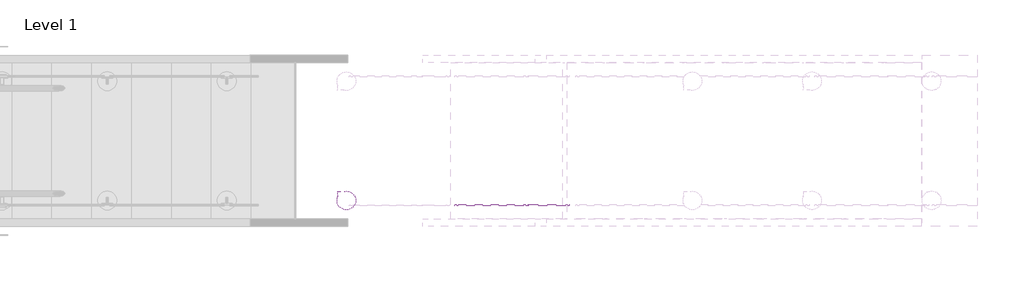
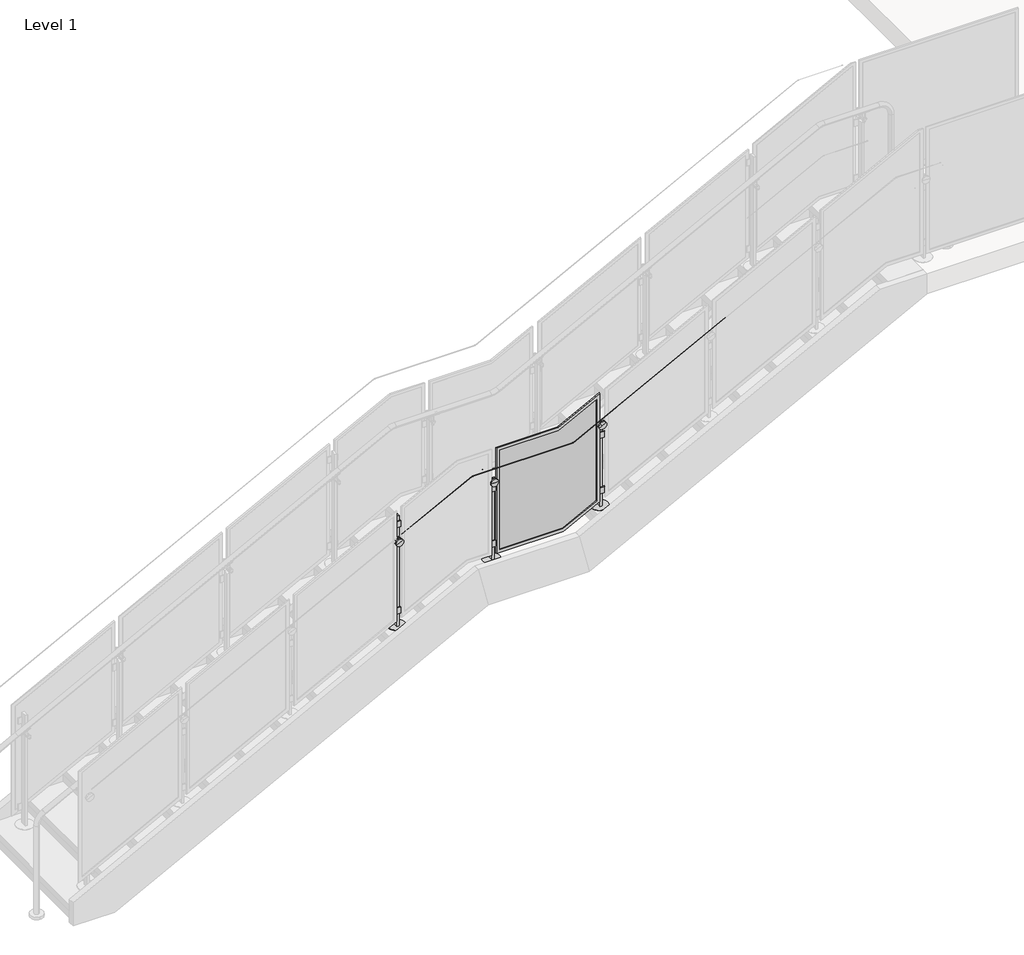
# One storey, part 24 of 28: 2 railings.
"""IFC4 building model written with IfcOpenShell, lengths in millimetres."""

from ifc_helpers import new_model, si_unit, point, frame, frame_2d, origin, place, context, project, spatial, polyline, circle_curve, ellipse_curve, trimmed, segment, composite_curve, outline, extrude, transform, mapped, element, save
from ifc_brep_helpers import plane_surface, cylinder_surface, advanced_brep
from components import standard_pp01_6bf6f29d

model = new_model("IFC4")

# Units and contexts
model_context = context("Model", 3, world=origin())
ifc_project = project(units=[si_unit("LENGTHUNIT", "METRE", prefix="MILLI")], contexts=[model_context])

# Site, building, storey
site = spatial("IfcSite", under=ifc_project)
building = spatial("IfcBuilding", under=site)
storey = spatial("IfcBuildingStorey", under=building, Name="Level 1", Elevation=0.0)

# Railings
placement = place(None, origin())
element("IfcRailing", 1, ObjectType="Metal-Panel-VIVA-STRUC-Top_Core-Stairs-Landing", at=placement, inside=storey, context=model_context, shape_type="SolidModel", body=[
    advanced_brep(
    [(-16484.3313244, 8263.5937722, 2381.2638324), (-16484.3313244, 8264.5937722, 2381.2638324), (-15931.7592018, 8263.5937722, 2668.3142857), (-15931.7592018, 8264.5937722, 2668.3142857), (-15144.3592018, 8263.5937722, 2668.3142857), (-15144.3592018, 8264.5937722, 2668.3142857), (-13959.1395244, 8263.5937722, 3284.0128194), (-13959.1395244, 8264.5937722, 3284.0128194)],
    [
        (0, 1, ellipse_curve(frame((-16484.3313244, 8264.0937722, 2381.2638324), z_axis=(-1.0, 0.0, 0.0), x_axis=(0.0, 0.0, -1.0)), 0.5634403, 0.5)),
        (1, 0, ellipse_curve(frame((-16484.3313244, 8264.0937722, 2381.2638324), z_axis=(-1.0, 0.0, 0.0), x_axis=(0.0, 0.0, -1.0)), 0.5634403, 0.5)),
        (0, 2),
        (2, 3, ellipse_curve(frame((-15931.7592018, 8264.0937722, 2668.3142857), z_axis=(-0.9714436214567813, 0.0, -0.23727050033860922), x_axis=(0.23727050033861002, 0.0, -0.971443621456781)), 0.5146979, 0.5)),
        (3, 1),
        (3, 2, ellipse_curve(frame((-15931.7592018, 8264.0937722, 2668.3142857), z_axis=(-0.9714436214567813, 0.0, -0.23727050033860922), x_axis=(0.23727050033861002, 0.0, -0.971443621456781)), 0.5146979, 0.5)),
        (2, 4),
        (4, 5, ellipse_curve(frame((-15144.3592018, 8264.0937722, 2668.3142857), z_axis=(-0.971443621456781, 0.0, -0.23727050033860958), x_axis=(-0.23727050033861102, 0.0, 0.9714436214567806)), 0.5146979, 0.5)),
        (5, 3),
        (5, 4, ellipse_curve(frame((-15144.3592018, 8264.0937722, 2668.3142857), z_axis=(-0.971443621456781, 0.0, -0.23727050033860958), x_axis=(-0.23727050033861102, 0.0, 0.9714436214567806)), 0.5146979, 0.5)),
        (6, 7, ellipse_curve(frame((-13959.1395244, 8264.0937722, 3284.0128194), z_axis=(1.0, 0.0, 0.0), x_axis=(0.0, 0.0, -1.0)), 0.5634403, 0.5)),
        (7, 6, ellipse_curve(frame((-13959.1395244, 8264.0937722, 3284.0128194), z_axis=(1.0, 0.0, 0.0), x_axis=(0.0, 0.0, -1.0)), 0.5634403, 0.5)),
        (4, 6),
        (7, 5),
    ],
    [
        plane_surface(frame((-16484.3313244, 8264.0937722, 2381.8272727), z_axis=(-1.0, 0.0, 0.0), x_axis=(0.0, 1.0, 0.0))),
        cylinder_surface(frame((-16484.1008295, 8264.0937722, 2381.38357), z_axis=(-0.8874054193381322, 0.0, -0.4609898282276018), x_axis=(0.0, 1.0, 0.0)), 0.5),
        cylinder_surface(frame((-15931.8813244, 8264.0937722, 2668.3142857), z_axis=(-1.0, 0.0, 0.0), x_axis=(0.0, 1.0, 0.0)), 0.5),
        plane_surface(frame((-13959.1395244, 8264.0937722, 3284.5762597), z_axis=(1.0, 0.0, 0.0), x_axis=(0.0, 1.0, 0.0))),
        cylinder_surface(frame((-15144.2508295, 8264.0937722, 2668.370583), z_axis=(-0.8874054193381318, 0.0, -0.4609898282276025), x_axis=(0.0, 1.0, 0.0)), 0.5),
    ],
    [
        (0, [[1, 2]]),
        (1, [[-1, 3, 4, 5]]),
        (1, [[-2, -5, 6, -3]]),
        (2, [[-4, 7, 8, 9]]),
        (2, [[-6, -9, 10, -7]]),
        (3, [[11, 12]]),
        (4, [[-8, 13, -12, 14]]),
        (4, [[-10, -14, -11, -13]]),
    ],
),
    extrude(outline(polyline([(-14838.9708437, 8485.1469722), (-14762.7694052, 8485.1469722), (-14762.7694052, 8478.0349722), (-14838.9708437, 8478.0349722), (-14838.9708437, 8485.1469722)])), frame((0.0, 0.0, 2456.8331429), z_axis=(0.0, 0.0, 1.0), x_axis=(1.0, 0.0, 0.0)), (0.0, 0.0, 1.0), 50.8),
    extrude(outline(polyline([(-14838.9708437, 8485.1469722), (-14762.7694052, 8485.1469722), (-14762.7694052, 8478.0349722), (-14838.9708437, 8478.0349722), (-14838.9708437, 8485.1469722)])), frame((0.0, 0.0, 1999.6331429), z_axis=(0.0, 0.0, 1.0), x_axis=(1.0, 0.0, 0.0)), (0.0, 0.0, 1.0), 50.8),
    extrude(outline(composite_curve([segment(polyline([(2.99974, 1e-07), (0.0, 0.0)]), True, "CONTINUOUS"), segment(trimmed(circle_curve(frame_2d((-19.0451472, -1e-07)), 19.0451471), [point((0.0, 0.0))], [point((-23.6280664, 18.4855208))], True, "CARTESIAN"), True, "CONTINUOUS"), segment(polyline([(-23.6280664, 18.4855208), (-24.3499073, 21.397116)]), True, "CONTINUOUS"), segment(trimmed(circle_curve(frame_2d((-19.0451472, -1e-07)), 22.0448871), [point((-24.3499073, 21.397116))], [point((2.99974, 1e-07))], False, "CARTESIAN"), True, "CONTINUOUS")], self_intersect=False)), frame((-14863.3578349, 8539.2349722, 2605.6654072), z_axis=(0.8874054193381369, 0.0, 0.4609898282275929), x_axis=(0.2840545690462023, -0.7876022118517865, -0.5468050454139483)), (0.0, 0.0, 1.0), 79.1184357),
    advanced_brep(
    [(-14788.4729468, 8554.2349722, 2547.3256434), (-14788.4729468, 8547.0912222, 2547.3256434), (-14788.4729468, 8561.3787222, 2547.3256434), (-14824.3321931, 8547.0912222, 2616.3546925), (-14824.3321931, 8554.2349722, 2616.3546925), (-14824.3321931, 8561.3787222, 2616.3546925)],
    [
        (0, 1),
        (1, 2, circle_curve(frame((-14788.4729468, 8554.2349722, 2547.3256434), z_axis=(0.46098982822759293, 0.0, -0.8874054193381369), x_axis=(0.0, 1.0, 0.0)), 7.14375)),
        (2, 0),
        (3, 4),
        (4, 5),
        (5, 3, circle_curve(frame((-14824.3321931, 8554.2349722, 2616.3546925), z_axis=(-0.46098982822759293, 0.0, 0.8874054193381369), x_axis=(0.0, 1.0, 0.0)), 7.14375)),
        (2, 1, circle_curve(frame((-14788.4729468, 8554.2349722, 2547.3256434), z_axis=(0.46098982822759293, 0.0, -0.8874054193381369), x_axis=(0.0, 1.0, 0.0)), 7.14375)),
        (3, 5, circle_curve(frame((-14824.3321931, 8554.2349722, 2616.3546925), z_axis=(-0.46098982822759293, 0.0, 0.8874054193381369), x_axis=(0.0, 1.0, 0.0)), 7.14375)),
        (1, 3),
        (5, 2),
    ],
    [
        plane_surface(frame((-14788.4729468, 8554.2349722, 2547.3256434), z_axis=(0.46098982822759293, 0.0, -0.8874054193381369), x_axis=(0.0, 1.0, 0.0))),
        plane_surface(frame((-14824.3321931, 8554.2349722, 2616.3546925), z_axis=(-0.46098982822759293, 0.0, 0.8874054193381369), x_axis=(0.0, 1.0, 0.0))),
        cylinder_surface(frame((-14671.5187469, 8554.2349722, 2322.1888087), z_axis=(0.46098982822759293, 0.0, -0.8874054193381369), x_axis=(0.0, 1.0, 0.0)), 7.14375),
    ],
    [
        (0, [[1, 2, 3]]),
        (1, [[4, 5, 6]]),
        (0, [[-3, 7, -1]]),
        (1, [[-5, -4, 8]]),
        (2, [[9, -6, 10, -2]]),
        (2, [[-10, -8, -9, -7]]),
    ],
),
    advanced_brep(
    [(-14827.6364904, 8468.5099722, 2557.2856047), (-14806.5051488, 8468.5099722, 2568.262925), (-14795.2351, 8468.5099722, 2574.1174958), (-14774.1037585, 8468.5099722, 2585.0948161), (-14827.6364904, 8460.5724722, 2557.2856047), (-14774.1037585, 8460.5724722, 2585.0948161), (-14827.6364904, 8485.9724722, 2557.2856047), (-14812.1401733, 8485.9724722, 2565.3356396), (-14789.6000756, 8485.9724722, 2577.0447812), (-14774.1037585, 8485.9724722, 2585.0948161), (-14827.6364904, 8478.0349722, 2557.2856047), (-14774.1037585, 8478.0349722, 2585.0948161), (-14800.8701244, 8460.5724722, 2571.1902104), (-14812.1401733, 8565.3474722, 2565.3356396), (-14800.8701244, 8565.3474722, 2571.1902104), (-14789.6000756, 8565.3474722, 2577.0447812), (-14806.5051488, 8478.0349722, 2568.262925), (-14795.2351, 8478.0349722, 2574.1174958)],
    [
        (0, 1),
        (1, 2, circle_curve(frame((-14800.8701244, 8468.5099722, 2571.1902104), z_axis=(0.0, -1.0, 0.0), x_axis=(0.8874054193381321, 0.0, 0.46098982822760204)), 6.35)),
        (2, 3),
        (3, 0, circle_curve(frame((-14800.8701244, 8468.5099722, 2571.1902104), z_axis=(0.0, 1.0, 0.0), x_axis=(0.8874054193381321, 0.0, 0.46098982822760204)), 30.1625)),
        (4, 0),
        (3, 5),
        (5, 4, circle_curve(frame((-14800.8701244, 8460.5724722, 2571.1902104), z_axis=(0.0, 1.0, 0.0), x_axis=(0.8874054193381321, 0.0, 0.46098982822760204)), 30.1625)),
        (6, 7),
        (7, 8, circle_curve(frame((-14800.8701244, 8485.9724722, 2571.1902104), z_axis=(0.0, -1.0, 0.0), x_axis=(0.8874054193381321, 0.0, 0.46098982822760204)), 12.7)),
        (8, 9),
        (9, 6, circle_curve(frame((-14800.8701244, 8485.9724722, 2571.1902104), z_axis=(0.0, 1.0, 0.0), x_axis=(0.8874054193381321, 0.0, 0.46098982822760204)), 30.1625)),
        (10, 6),
        (9, 11),
        (11, 10, circle_curve(frame((-14800.8701244, 8478.0349722, 2571.1902104), z_axis=(0.0, 1.0, 0.0), x_axis=(0.8874054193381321, 0.0, 0.46098982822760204)), 30.1625)),
        (3, 0, circle_curve(frame((-14800.8701244, 8468.5099722, 2571.1902104), z_axis=(0.0, -1.0, 0.0), x_axis=(0.8874054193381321, 0.0, 0.46098982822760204)), 30.1625)),
        (4, 5, circle_curve(frame((-14800.8701244, 8460.5724722, 2571.1902104), z_axis=(0.0, 1.0, 0.0), x_axis=(0.8874054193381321, 0.0, 0.46098982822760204)), 30.1625)),
        (12, 4),
        (5, 12),
        (13, 14),
        (14, 15),
        (15, 13, circle_curve(frame((-14800.8701244, 8565.3474722, 2571.1902104), z_axis=(0.0, 1.0, 0.0), x_axis=(0.8874054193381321, 0.0, 0.46098982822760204)), 12.7)),
        (13, 15, circle_curve(frame((-14800.8701244, 8565.3474722, 2571.1902104), z_axis=(0.0, 1.0, 0.0), x_axis=(0.8874054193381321, 0.0, 0.46098982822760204)), 12.7)),
        (7, 13),
        (15, 8),
        (7, 8, circle_curve(frame((-14800.8701244, 8485.9724722, 2571.1902104), z_axis=(0.0, 1.0, 0.0), x_axis=(0.8874054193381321, 0.0, 0.46098982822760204)), 12.7)),
        (6, 9, circle_curve(frame((-14800.8701244, 8485.9724722, 2571.1902104), z_axis=(0.0, 1.0, 0.0), x_axis=(0.8874054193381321, 0.0, 0.46098982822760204)), 30.1625)),
        (10, 11, circle_curve(frame((-14800.8701244, 8478.0349722, 2571.1902104), z_axis=(0.0, 1.0, 0.0), x_axis=(0.8874054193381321, 0.0, 0.46098982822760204)), 30.1625)),
        (16, 10),
        (11, 17),
        (17, 16, circle_curve(frame((-14800.8701244, 8478.0349722, 2571.1902104), z_axis=(0.0, 1.0, 0.0), x_axis=(0.8874054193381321, 0.0, 0.46098982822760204)), 6.35)),
        (16, 17, circle_curve(frame((-14800.8701244, 8478.0349722, 2571.1902104), z_axis=(0.0, 1.0, 0.0), x_axis=(0.8874054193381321, 0.0, 0.46098982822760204)), 6.35)),
        (1, 16),
        (17, 2),
        (1, 2, circle_curve(frame((-14800.8701244, 8468.5099722, 2571.1902104), z_axis=(0.0, 1.0, 0.0), x_axis=(0.8874054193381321, 0.0, 0.46098982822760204)), 6.35)),
    ],
    [
        plane_surface(frame((-14800.8701244, 8468.5099722, 2571.1902104), z_axis=(0.0, 1.0, 0.0), x_axis=(0.8874054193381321, 0.0, 0.46098982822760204))),
        cylinder_surface(frame((-14800.8701244, 6954.0349722, 2571.1902104), z_axis=(0.0, -1.0, 0.0), x_axis=(0.8874054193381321, 0.0, 0.46098982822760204)), 30.1625),
        plane_surface(frame((-14800.8701244, 8485.9724722, 2571.1902104), z_axis=(0.0, 1.0, 0.0), x_axis=(0.8874054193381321, 0.0, 0.46098982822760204))),
        plane_surface(frame((-14800.8701244, 8460.5724722, 2571.1902104), z_axis=(0.0, -1.0, 0.0), x_axis=(0.8874054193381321, 0.0, 0.46098982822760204))),
        plane_surface(frame((-14800.8701244, 8565.3474722, 2571.1902104), z_axis=(0.0, 1.0, 0.0), x_axis=(0.8874054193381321, 0.0, 0.46098982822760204))),
        cylinder_surface(frame((-14800.8701244, 6954.0349722, 2571.1902104), z_axis=(0.0, -1.0, 0.0), x_axis=(0.8874054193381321, 0.0, 0.46098982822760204)), 12.7),
        plane_surface(frame((-14800.8701244, 8478.0349722, 2571.1902104), z_axis=(0.0, -1.0, 0.0), x_axis=(0.8874054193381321, 0.0, 0.46098982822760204))),
        cylinder_surface(frame((-14800.8701244, 6954.0349722, 2571.1902104), z_axis=(0.0, -1.0, 0.0), x_axis=(0.8874054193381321, 0.0, 0.46098982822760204)), 6.35),
    ],
    [
        (0, [[1, 2, 3, 4]]),
        (1, [[5, -4, 6, 7]]),
        (2, [[8, 9, 10, 11]]),
        (1, [[12, -11, 13, 14]]),
        (1, [[-6, 15, -5, 16]]),
        (3, [[17, -7, 18]]),
        (3, [[-18, -16, -17]]),
        (4, [[19, 20, 21]]),
        (4, [[-20, -19, 22]]),
        (5, [[23, -21, 24, -9]]),
        (5, [[-24, -22, -23, 25]]),
        (2, [[-10, -25, -8, 26]]),
        (1, [[-13, -26, -12, 27]]),
        (6, [[28, -14, 29, 30]]),
        (6, [[-29, -27, -28, 31]]),
        (7, [[32, -30, 33, -2]]),
        (7, [[-33, -31, -32, 34]]),
        (0, [[-3, -34, -1, -15]]),
    ],
),
    extrude(outline(composite_curve([segment(trimmed(circle_curve(frame_2d((-14800.8701244, 8507.3719722)), 65.8876), [point((-14800.8701244, 8441.4843722))], [point((-14800.8701244, 8573.2595722))], False, "CARTESIAN"), True, "CONTINUOUS"), segment(trimmed(circle_curve(frame_2d((-14800.8701244, 8507.3719722)), 65.8876), [point((-14800.8701244, 8573.2595722))], [point((-14800.8701244, 8441.4843722))], False, "CARTESIAN"), True, "CONTINUOUS")], self_intersect=False)), frame((0.0, 0.0, 1886.8571429), z_axis=(0.0, 0.0, 1.0), x_axis=(1.0, 0.0, 0.0)), (0.0, 0.0, 1.0), 2.9821299),
    extrude(outline(polyline([(-14808.8097161, 8529.5969722), (-14792.9305328, 8529.5969722), (-14792.9305328, 8485.1469722), (-14808.8097161, 8485.1469722), (-14808.8097161, 8529.5969722)])), frame((0.0, 0.0, 1785.2571429), z_axis=(0.0, 0.0, 1.0), x_axis=(1.0, 0.0, 0.0)), (0.0, 0.0, 1.0), 762.0),
    extrude(outline(polyline([(-15680.7014437, 8485.1469722), (-15604.5000052, 8485.1469722), (-15604.5000052, 8478.0349722), (-15680.7014437, 8478.0349722), (-15680.7014437, 8485.1469722)])), frame((0.0, 0.0, 2311.6902857), z_axis=(0.0, 0.0, 1.0), x_axis=(1.0, 0.0, 0.0)), (0.0, 0.0, 1.0), 50.8),
    extrude(outline(polyline([(-15680.7014437, 8485.1469722), (-15604.5000052, 8485.1469722), (-15604.5000052, 8478.0349722), (-15680.7014437, 8478.0349722), (-15680.7014437, 8485.1469722)])), frame((0.0, 0.0, 1854.4902857), z_axis=(0.0, 0.0, 1.0), x_axis=(1.0, 0.0, 0.0)), (0.0, 0.0, 1.0), 50.8),
    extrude(outline(composite_curve([segment(polyline([(8536.8723704, 2450.2421693), (8539.2349722, 2452.0905611)]), True, "CONTINUOUS"), segment(trimmed(circle_curve(frame_2d((8554.2349722, 2463.8258766)), 19.0451471), [point((8539.2349722, 2452.0905611))], [point((8569.2349722, 2452.0905611))], True, "CARTESIAN"), True, "CONTINUOUS"), segment(polyline([(8569.2349722, 2452.0905611), (8571.5975741, 2450.2421693)]), True, "CONTINUOUS"), segment(trimmed(circle_curve(frame_2d((8554.2349722, 2463.8258766)), 22.0448871), [point((8571.5975741, 2450.2421693))], [point((8536.8723704, 2450.2421693))], False, "CARTESIAN"), True, "CONTINUOUS")], self_intersect=False)), frame((-15682.1599423, 0.0, 0.0), z_axis=(1.0, 0.0, 0.0), x_axis=(0.0, 1.0, 0.0)), (0.0, 0.0, 1.0), 79.1184357),
    advanced_brep(
    [(-15642.6007244, 8554.2349722, 2365.7983669), (-15642.6007244, 8547.0912222, 2365.7983669), (-15642.6007244, 8561.3787222, 2365.7983669), (-15642.6007244, 8547.0912222, 2443.5858669), (-15642.6007244, 8554.2349722, 2443.5858669), (-15642.6007244, 8561.3787222, 2443.5858669)],
    [
        (0, 1),
        (1, 2, circle_curve(frame((-15642.6007244, 8554.2349722, 2365.7983669), z_axis=(0.0, 0.0, -1.0), x_axis=(0.0, 1.0, 0.0)), 7.14375)),
        (2, 0),
        (3, 4),
        (4, 5),
        (5, 3, circle_curve(frame((-15642.6007244, 8554.2349722, 2443.5858669), z_axis=(0.0, 0.0, 1.0), x_axis=(0.0, 1.0, 0.0)), 7.14375)),
        (2, 1, circle_curve(frame((-15642.6007244, 8554.2349722, 2365.7983669), z_axis=(0.0, 0.0, -1.0), x_axis=(0.0, 1.0, 0.0)), 7.14375)),
        (3, 5, circle_curve(frame((-15642.6007244, 8554.2349722, 2443.5858669), z_axis=(0.0, 0.0, 1.0), x_axis=(0.0, 1.0, 0.0)), 7.14375)),
        (1, 3),
        (5, 2),
    ],
    [
        plane_surface(frame((-15642.6007244, 8554.2349722, 2365.7983669), z_axis=(0.0, 0.0, -1.0), x_axis=(0.0, 1.0, 0.0))),
        plane_surface(frame((-15642.6007244, 8554.2349722, 2443.5858669), z_axis=(0.0, 0.0, 1.0), x_axis=(0.0, 1.0, 0.0))),
        cylinder_surface(frame((-15642.6007244, 8554.2349722, 2112.0960231), z_axis=(0.0, 0.0, -1.0), x_axis=(0.0, 1.0, 0.0)), 7.14375),
    ],
    [
        (0, [[1, 2, 3]]),
        (1, [[4, 5, 6]]),
        (0, [[-3, 7, -1]]),
        (1, [[-5, -4, 8]]),
        (2, [[9, -6, 10, -2]]),
        (2, [[-10, -8, -9, -7]]),
    ],
),
    advanced_brep(
    [(-15672.7632244, 8468.5099722, 2392.6908857), (-15648.9507244, 8468.5099722, 2392.6908857), (-15636.2507244, 8468.5099722, 2392.6908857), (-15612.4382244, 8468.5099722, 2392.6908857), (-15672.7632244, 8460.5724722, 2392.6908857), (-15612.4382244, 8460.5724722, 2392.6908857), (-15672.7632244, 8485.9724722, 2392.6908857), (-15655.3007244, 8485.9724722, 2392.6908857), (-15629.9007244, 8485.9724722, 2392.6908857), (-15612.4382244, 8485.9724722, 2392.6908857), (-15672.7632244, 8478.0349722, 2392.6908857), (-15612.4382244, 8478.0349722, 2392.6908857), (-15642.6007244, 8460.5724722, 2392.6908857), (-15655.3007244, 8565.3474722, 2392.6908857), (-15642.6007244, 8565.3474722, 2392.6908857), (-15629.9007244, 8565.3474722, 2392.6908857), (-15648.9507244, 8478.0349722, 2392.6908857), (-15636.2507244, 8478.0349722, 2392.6908857)],
    [
        (0, 1),
        (1, 2, circle_curve(frame((-15642.6007244, 8468.5099722, 2392.6908857), z_axis=(0.0, -1.0, 0.0), x_axis=(1.0, 0.0, 0.0)), 6.35)),
        (2, 3),
        (3, 0, circle_curve(frame((-15642.6007244, 8468.5099722, 2392.6908857), z_axis=(0.0, 1.0, 0.0), x_axis=(1.0, 0.0, 0.0)), 30.1625)),
        (4, 0),
        (3, 5),
        (5, 4, circle_curve(frame((-15642.6007244, 8460.5724722, 2392.6908857), z_axis=(0.0, 1.0, 0.0), x_axis=(1.0, 0.0, 0.0)), 30.1625)),
        (6, 7),
        (7, 8, circle_curve(frame((-15642.6007244, 8485.9724722, 2392.6908857), z_axis=(0.0, -1.0, 0.0), x_axis=(1.0, 0.0, 0.0)), 12.7)),
        (8, 9),
        (9, 6, circle_curve(frame((-15642.6007244, 8485.9724722, 2392.6908857), z_axis=(0.0, 1.0, 0.0), x_axis=(1.0, 0.0, 0.0)), 30.1625)),
        (10, 6),
        (9, 11),
        (11, 10, circle_curve(frame((-15642.6007244, 8478.0349722, 2392.6908857), z_axis=(0.0, 1.0, 0.0), x_axis=(1.0, 0.0, 0.0)), 30.1625)),
        (3, 0, circle_curve(frame((-15642.6007244, 8468.5099722, 2392.6908857), z_axis=(0.0, -1.0, 0.0), x_axis=(1.0, 0.0, 0.0)), 30.1625)),
        (4, 5, circle_curve(frame((-15642.6007244, 8460.5724722, 2392.6908857), z_axis=(0.0, 1.0, 0.0), x_axis=(1.0, 0.0, 0.0)), 30.1625)),
        (12, 4),
        (5, 12),
        (13, 14),
        (14, 15),
        (15, 13, circle_curve(frame((-15642.6007244, 8565.3474722, 2392.6908857), z_axis=(0.0, 1.0, 0.0), x_axis=(1.0, 0.0, 0.0)), 12.7)),
        (13, 15, circle_curve(frame((-15642.6007244, 8565.3474722, 2392.6908857), z_axis=(0.0, 1.0, 0.0), x_axis=(1.0, 0.0, 0.0)), 12.7)),
        (7, 13),
        (15, 8),
        (7, 8, circle_curve(frame((-15642.6007244, 8485.9724722, 2392.6908857), z_axis=(0.0, 1.0, 0.0), x_axis=(1.0, 0.0, 0.0)), 12.7)),
        (6, 9, circle_curve(frame((-15642.6007244, 8485.9724722, 2392.6908857), z_axis=(0.0, 1.0, 0.0), x_axis=(1.0, 0.0, 0.0)), 30.1625)),
        (10, 11, circle_curve(frame((-15642.6007244, 8478.0349722, 2392.6908857), z_axis=(0.0, 1.0, 0.0), x_axis=(1.0, 0.0, 0.0)), 30.1625)),
        (16, 10),
        (11, 17),
        (17, 16, circle_curve(frame((-15642.6007244, 8478.0349722, 2392.6908857), z_axis=(0.0, 1.0, 0.0), x_axis=(1.0, 0.0, 0.0)), 6.35)),
        (16, 17, circle_curve(frame((-15642.6007244, 8478.0349722, 2392.6908857), z_axis=(0.0, 1.0, 0.0), x_axis=(1.0, 0.0, 0.0)), 6.35)),
        (1, 16),
        (17, 2),
        (1, 2, circle_curve(frame((-15642.6007244, 8468.5099722, 2392.6908857), z_axis=(0.0, 1.0, 0.0), x_axis=(1.0, 0.0, 0.0)), 6.35)),
    ],
    [
        plane_surface(frame((-15642.6007244, 8468.5099722, 2392.6908857), z_axis=(0.0, 1.0, 0.0), x_axis=(1.0, 0.0, 0.0))),
        cylinder_surface(frame((-15642.6007244, 6954.0349722, 2392.6908857), z_axis=(0.0, -1.0, 0.0), x_axis=(1.0, 0.0, 0.0)), 30.1625),
        plane_surface(frame((-15642.6007244, 8485.9724722, 2392.6908857), z_axis=(0.0, 1.0, 0.0), x_axis=(1.0, 0.0, 0.0))),
        plane_surface(frame((-15642.6007244, 8460.5724722, 2392.6908857), z_axis=(0.0, -1.0, 0.0), x_axis=(1.0, 0.0, 0.0))),
        plane_surface(frame((-15642.6007244, 8565.3474722, 2392.6908857), z_axis=(0.0, 1.0, 0.0), x_axis=(1.0, 0.0, 0.0))),
        cylinder_surface(frame((-15642.6007244, 6954.0349722, 2392.6908857), z_axis=(0.0, -1.0, 0.0), x_axis=(1.0, 0.0, 0.0)), 12.7),
        plane_surface(frame((-15642.6007244, 8478.0349722, 2392.6908857), z_axis=(0.0, -1.0, 0.0), x_axis=(1.0, 0.0, 0.0))),
        cylinder_surface(frame((-15642.6007244, 6954.0349722, 2392.6908857), z_axis=(0.0, -1.0, 0.0), x_axis=(1.0, 0.0, 0.0)), 6.35),
    ],
    [
        (0, [[1, 2, 3, 4]]),
        (1, [[5, -4, 6, 7]]),
        (2, [[8, 9, 10, 11]]),
        (1, [[12, -11, 13, 14]]),
        (1, [[-6, 15, -5, 16]]),
        (3, [[17, -7, 18]]),
        (3, [[-18, -16, -17]]),
        (4, [[19, 20, 21]]),
        (4, [[-20, -19, 22]]),
        (5, [[23, -21, 24, -9]]),
        (5, [[-24, -22, -23, 25]]),
        (2, [[-10, -25, -8, 26]]),
        (1, [[-13, -26, -12, 27]]),
        (6, [[28, -14, 29, 30]]),
        (6, [[-29, -27, -28, 31]]),
        (7, [[32, -30, 33, -2]]),
        (7, [[-33, -31, -32, 34]]),
        (0, [[-3, -34, -1, -15]]),
    ],
),
    extrude(outline(composite_curve([segment(trimmed(circle_curve(frame_2d((-15642.6007244, 8507.3719722)), 65.8876), [point((-15642.6007244, 8441.4843722))], [point((-15642.6007244, 8573.2595722))], False, "CARTESIAN"), True, "CONTINUOUS"), segment(trimmed(circle_curve(frame_2d((-15642.6007244, 8507.3719722)), 65.8876), [point((-15642.6007244, 8573.2595722))], [point((-15642.6007244, 8441.4843722))], False, "CARTESIAN"), True, "CONTINUOUS")], self_intersect=False)), frame((0.0, 0.0, 1741.7142857), z_axis=(0.0, 0.0, 1.0), x_axis=(1.0, 0.0, 0.0)), (0.0, 0.0, 1.0), 2.9821299),
    extrude(outline(polyline([(-15650.5403161, 8529.5969722), (-15634.6611328, 8529.5969722), (-15634.6611328, 8485.1469722), (-15650.5403161, 8485.1469722), (-15650.5403161, 8529.5969722)])), frame((0.0, 0.0, 1640.1142857), z_axis=(0.0, 0.0, 1.0), x_axis=(1.0, 0.0, 0.0)), (0.0, 0.0, 1.0), 762.0),
    extrude(outline(polyline([(-16420.8320437, 8485.1469722), (-16344.6306052, 8485.1469722), (-16344.6306052, 8478.0349722), (-16420.8320437, 8478.0349722), (-16420.8320437, 8485.1469722)])), frame((0.0, 0.0, 2275.4045714), z_axis=(0.0, 0.0, 1.0), x_axis=(1.0, 0.0, 0.0)), (0.0, 0.0, 1.0), 50.8),
    extrude(outline(polyline([(-16420.8320437, 8485.1469722), (-16344.6306052, 8485.1469722), (-16344.6306052, 8478.0349722), (-16420.8320437, 8478.0349722), (-16420.8320437, 8485.1469722)])), frame((0.0, 0.0, 1564.2045714), z_axis=(0.0, 0.0, 1.0), x_axis=(1.0, 0.0, 0.0)), (0.0, 0.0, 1.0), 50.8),
    extrude(outline(composite_curve([segment(polyline([(2.9997399, 0.0), (0.0, 0.0)]), True, "CONTINUOUS"), segment(trimmed(circle_curve(frame_2d((-19.0451472, -1e-07)), 19.0451471), [point((0.0, 0.0))], [point((-23.6280664, 18.4855208))], True, "CARTESIAN"), True, "CONTINUOUS"), segment(polyline([(-23.6280664, 18.4855208), (-24.3499073, 21.3971159)]), True, "CONTINUOUS"), segment(trimmed(circle_curve(frame_2d((-19.0451472, -1e-07)), 22.0448871), [point((-24.3499073, 21.3971159))], [point((2.9997399, 0.0))], False, "CARTESIAN"), True, "CONTINUOUS")], self_intersect=False)), frame((-16445.2190349, 8539.2349722, 2192.9582903), z_axis=(0.8874054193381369, 0.0, 0.4609898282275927), x_axis=(0.2840545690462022, -0.7876022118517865, -0.5468050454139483)), (0.0, 0.0, 1.0), 79.1184357),
    advanced_brep(
    [(-16370.3341468, 8554.2349722, 2134.6185266), (-16370.3341468, 8547.0912222, 2134.6185266), (-16370.3341468, 8561.3787222, 2134.6185266), (-16406.1933931, 8547.0912222, 2203.6475756), (-16406.1933931, 8554.2349722, 2203.6475756), (-16406.1933931, 8561.3787222, 2203.6475756)],
    [
        (0, 1),
        (1, 2, circle_curve(frame((-16370.3341468, 8554.2349722, 2134.6185266), z_axis=(0.4609898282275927, 0.0, -0.887405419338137), x_axis=(0.0, 1.0, 0.0)), 7.14375)),
        (2, 0),
        (3, 4),
        (4, 5),
        (5, 3, circle_curve(frame((-16406.1933931, 8554.2349722, 2203.6475756), z_axis=(-0.4609898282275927, 0.0, 0.887405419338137), x_axis=(0.0, 1.0, 0.0)), 7.14375)),
        (2, 1, circle_curve(frame((-16370.3341468, 8554.2349722, 2134.6185266), z_axis=(0.4609898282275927, 0.0, -0.887405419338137), x_axis=(0.0, 1.0, 0.0)), 7.14375)),
        (3, 5, circle_curve(frame((-16406.1933931, 8554.2349722, 2203.6475756), z_axis=(-0.4609898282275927, 0.0, 0.887405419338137), x_axis=(0.0, 1.0, 0.0)), 7.14375)),
        (1, 3),
        (5, 2),
    ],
    [
        plane_surface(frame((-16370.3341468, 8554.2349722, 2134.6185266), z_axis=(0.4609898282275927, 0.0, -0.887405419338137), x_axis=(0.0, 1.0, 0.0))),
        plane_surface(frame((-16406.1933931, 8554.2349722, 2203.6475756), z_axis=(-0.4609898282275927, 0.0, 0.887405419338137), x_axis=(0.0, 1.0, 0.0))),
        cylinder_surface(frame((-16253.3799469, 8554.2349722, 1909.4816918), z_axis=(0.4609898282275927, 0.0, -0.887405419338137), x_axis=(0.0, 1.0, 0.0)), 7.14375),
    ],
    [
        (0, [[1, 2, 3]]),
        (1, [[4, 5, 6]]),
        (0, [[-3, 7, -1]]),
        (1, [[-5, -4, 8]]),
        (2, [[9, -6, 10, -2]]),
        (2, [[-10, -8, -9, -7]]),
    ],
),
    advanced_brep(
    [(-16409.4976904, 8468.5099722, 2144.5784878), (-16388.3663488, 8468.5099722, 2155.5558081), (-16377.0963, 8468.5099722, 2161.4103789), (-16355.9649585, 8468.5099722, 2172.3876992), (-16409.4976904, 8460.5724722, 2144.5784878), (-16355.9649585, 8460.5724722, 2172.3876992), (-16409.4976904, 8485.9724722, 2144.5784878), (-16394.0013733, 8485.9724722, 2152.6285227), (-16371.4612756, 8485.9724722, 2164.3376643), (-16355.9649585, 8485.9724722, 2172.3876992), (-16409.4976904, 8478.0349722, 2144.5784878), (-16355.9649585, 8478.0349722, 2172.3876992), (-16382.7313244, 8460.5724722, 2158.4830935), (-16394.0013733, 8565.3474722, 2152.6285227), (-16382.7313244, 8565.3474722, 2158.4830935), (-16371.4612756, 8565.3474722, 2164.3376643), (-16388.3663488, 8478.0349722, 2155.5558081), (-16377.0963, 8478.0349722, 2161.4103789)],
    [
        (0, 1),
        (1, 2, circle_curve(frame((-16382.7313244, 8468.5099722, 2158.4830935), z_axis=(0.0, -1.0, 0.0), x_axis=(0.8874054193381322, 0.0, 0.4609898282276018)), 6.35)),
        (2, 3),
        (3, 0, circle_curve(frame((-16382.7313244, 8468.5099722, 2158.4830935), z_axis=(0.0, 1.0, 0.0), x_axis=(0.8874054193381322, 0.0, 0.4609898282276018)), 30.1625)),
        (4, 0),
        (3, 5),
        (5, 4, circle_curve(frame((-16382.7313244, 8460.5724722, 2158.4830935), z_axis=(0.0, 1.0, 0.0), x_axis=(0.8874054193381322, 0.0, 0.4609898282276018)), 30.1625)),
        (6, 7),
        (7, 8, circle_curve(frame((-16382.7313244, 8485.9724722, 2158.4830935), z_axis=(0.0, -1.0, 0.0), x_axis=(0.8874054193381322, 0.0, 0.4609898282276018)), 12.7)),
        (8, 9),
        (9, 6, circle_curve(frame((-16382.7313244, 8485.9724722, 2158.4830935), z_axis=(0.0, 1.0, 0.0), x_axis=(0.8874054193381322, 0.0, 0.4609898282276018)), 30.1625)),
        (10, 6),
        (9, 11),
        (11, 10, circle_curve(frame((-16382.7313244, 8478.0349722, 2158.4830935), z_axis=(0.0, 1.0, 0.0), x_axis=(0.8874054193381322, 0.0, 0.4609898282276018)), 30.1625)),
        (3, 0, circle_curve(frame((-16382.7313244, 8468.5099722, 2158.4830935), z_axis=(0.0, -1.0, 0.0), x_axis=(0.8874054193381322, 0.0, 0.4609898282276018)), 30.1625)),
        (4, 5, circle_curve(frame((-16382.7313244, 8460.5724722, 2158.4830935), z_axis=(0.0, 1.0, 0.0), x_axis=(0.8874054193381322, 0.0, 0.4609898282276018)), 30.1625)),
        (12, 4),
        (5, 12),
        (13, 14),
        (14, 15),
        (15, 13, circle_curve(frame((-16382.7313244, 8565.3474722, 2158.4830935), z_axis=(0.0, 1.0, 0.0), x_axis=(0.8874054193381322, 0.0, 0.4609898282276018)), 12.7)),
        (13, 15, circle_curve(frame((-16382.7313244, 8565.3474722, 2158.4830935), z_axis=(0.0, 1.0, 0.0), x_axis=(0.8874054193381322, 0.0, 0.4609898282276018)), 12.7)),
        (7, 13),
        (15, 8),
        (7, 8, circle_curve(frame((-16382.7313244, 8485.9724722, 2158.4830935), z_axis=(0.0, 1.0, 0.0), x_axis=(0.8874054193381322, 0.0, 0.4609898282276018)), 12.7)),
        (6, 9, circle_curve(frame((-16382.7313244, 8485.9724722, 2158.4830935), z_axis=(0.0, 1.0, 0.0), x_axis=(0.8874054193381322, 0.0, 0.4609898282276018)), 30.1625)),
        (10, 11, circle_curve(frame((-16382.7313244, 8478.0349722, 2158.4830935), z_axis=(0.0, 1.0, 0.0), x_axis=(0.8874054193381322, 0.0, 0.4609898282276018)), 30.1625)),
        (16, 10),
        (11, 17),
        (17, 16, circle_curve(frame((-16382.7313244, 8478.0349722, 2158.4830935), z_axis=(0.0, 1.0, 0.0), x_axis=(0.8874054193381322, 0.0, 0.4609898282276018)), 6.35)),
        (16, 17, circle_curve(frame((-16382.7313244, 8478.0349722, 2158.4830935), z_axis=(0.0, 1.0, 0.0), x_axis=(0.8874054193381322, 0.0, 0.4609898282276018)), 6.35)),
        (1, 16),
        (17, 2),
        (1, 2, circle_curve(frame((-16382.7313244, 8468.5099722, 2158.4830935), z_axis=(0.0, 1.0, 0.0), x_axis=(0.8874054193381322, 0.0, 0.4609898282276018)), 6.35)),
    ],
    [
        plane_surface(frame((-16382.7313244, 8468.5099722, 2158.4830935), z_axis=(0.0, 1.0, 0.0), x_axis=(0.8874054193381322, 0.0, 0.4609898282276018))),
        cylinder_surface(frame((-16382.7313244, 6954.0349722, 2158.4830935), z_axis=(0.0, -1.0, 0.0), x_axis=(0.8874054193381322, 0.0, 0.4609898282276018)), 30.1625),
        plane_surface(frame((-16382.7313244, 8485.9724722, 2158.4830935), z_axis=(0.0, 1.0, 0.0), x_axis=(0.8874054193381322, 0.0, 0.4609898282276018))),
        plane_surface(frame((-16382.7313244, 8460.5724722, 2158.4830935), z_axis=(0.0, -1.0, 0.0), x_axis=(0.8874054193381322, 0.0, 0.4609898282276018))),
        plane_surface(frame((-16382.7313244, 8565.3474722, 2158.4830935), z_axis=(0.0, 1.0, 0.0), x_axis=(0.8874054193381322, 0.0, 0.4609898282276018))),
        cylinder_surface(frame((-16382.7313244, 6954.0349722, 2158.4830935), z_axis=(0.0, -1.0, 0.0), x_axis=(0.8874054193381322, 0.0, 0.4609898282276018)), 12.7),
        plane_surface(frame((-16382.7313244, 8478.0349722, 2158.4830935), z_axis=(0.0, -1.0, 0.0), x_axis=(0.8874054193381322, 0.0, 0.4609898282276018))),
        cylinder_surface(frame((-16382.7313244, 6954.0349722, 2158.4830935), z_axis=(0.0, -1.0, 0.0), x_axis=(0.8874054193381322, 0.0, 0.4609898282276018)), 6.35),
    ],
    [
        (0, [[1, 2, 3, 4]]),
        (1, [[5, -4, 6, 7]]),
        (2, [[8, 9, 10, 11]]),
        (1, [[12, -11, 13, 14]]),
        (1, [[-6, 15, -5, 16]]),
        (3, [[17, -7, 18]]),
        (3, [[-18, -16, -17]]),
        (4, [[19, 20, 21]]),
        (4, [[-20, -19, 22]]),
        (5, [[23, -21, 24, -9]]),
        (5, [[-24, -22, -23, 25]]),
        (2, [[-10, -25, -8, 26]]),
        (1, [[-13, -26, -12, 27]]),
        (6, [[28, -14, 29, 30]]),
        (6, [[-29, -27, -28, 31]]),
        (7, [[32, -30, 33, -2]]),
        (7, [[-33, -31, -32, 34]]),
        (0, [[-3, -34, -1, -15]]),
    ],
),
    extrude(outline(composite_curve([segment(trimmed(circle_curve(frame_2d((-16382.7313244, 8507.3719722)), 65.8876), [point((-16382.7313244, 8441.4843722))], [point((-16382.7313244, 8573.2595722))], False, "CARTESIAN"), True, "CONTINUOUS"), segment(trimmed(circle_curve(frame_2d((-16382.7313244, 8507.3719722)), 65.8876), [point((-16382.7313244, 8573.2595722))], [point((-16382.7313244, 8441.4843722))], False, "CARTESIAN"), True, "CONTINUOUS")], self_intersect=False)), frame((0.0, 0.0, 1451.4285714), z_axis=(0.0, 0.0, 1.0), x_axis=(1.0, 0.0, 0.0)), (0.0, 0.0, 1.0), 2.9821299),
    extrude(outline(polyline([(-16390.6709161, 8529.5969722), (-16374.7917328, 8529.5969722), (-16374.7917328, 8485.1469722), (-16390.6709161, 8485.1469722), (-16390.6709161, 8529.5969722)])), frame((0.0, 0.0, 1349.8285714), z_axis=(0.0, 0.0, 1.0), x_axis=(1.0, 0.0, 0.0)), (0.0, 0.0, 1.0), 1016.0),
])
standard_pp01_shape = standard_pp01_6bf6f29d(model_context)
element("IfcRailing", 2, ObjectType="Baluster-Landing-Panel-VIVA-STRUC-Upper : Standard_PP01", at=placement, inside=storey, context=model_context, shape_type="MappedRepresentation", body=[
    mapped(standard_pp01_shape, transform((-15804.658102, 8412.7696722, 1732.5923434), x_axis=(0.0, 1.0, 0.0), y_axis=(-1.0, 0.0, 0.0), z_axis=(0.0, 0.0, 1.0))),
])

save(model, "model.ifc")
